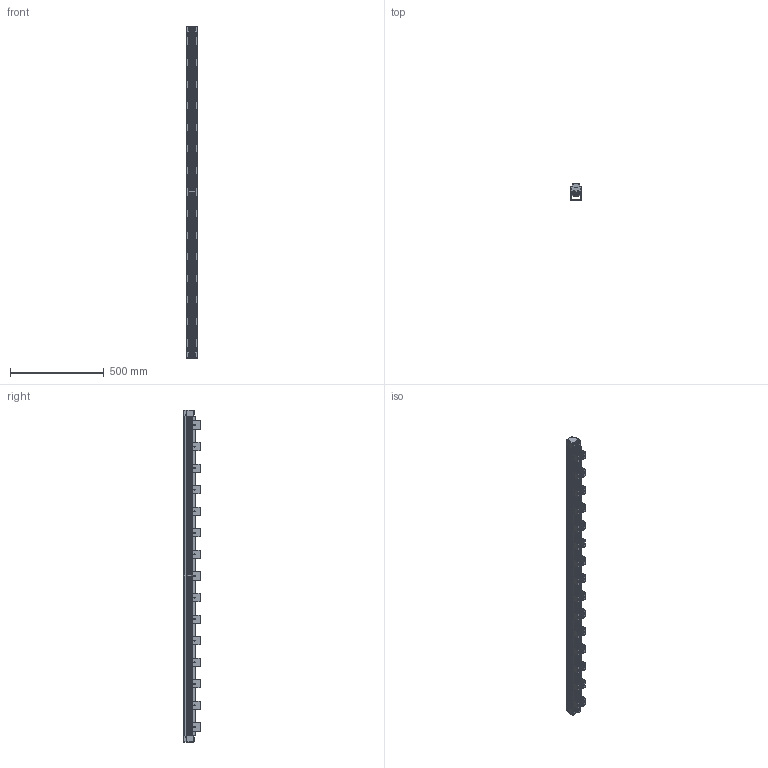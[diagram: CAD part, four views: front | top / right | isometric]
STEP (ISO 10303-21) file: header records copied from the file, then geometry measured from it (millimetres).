
FILE_DESCRIPTION((''),'2;1');
FILE_NAME('P-LSG-1700_ASM','2020-10-19T',('Administrator'),(''),'PRO/ENGINEER BY PARAMETRIC TECHNOLOGY CORPORATION, 2010100','PRO/ENGINEER BY PARAMETRIC TECHNOLOGY CORPORATION, 2010100','');
FILE_SCHEMA(('CONFIG_CONTROL_DESIGN'));
Length unit declared in the file: millimetre
Products named in the file (5): JIEMIAN; SRP; FSZ; 19M-6H; P-LSG-1700_ASM
Assembly tree (19 placements, depth 2):
  P-LSG-1700_ASM
    JIEMIAN
    SRP
    FSZ  x15
    19M-6H  x2
Bounding box: 58 x 92.5 x 1770 mm (x, y, z)
Volume: 4042861.1 mm3; surface area: 1399902.9 mm2
Topology: 18 solids, 78 shells, 1601 faces, 4214 edges, 2646 vertices
Faces by surface type: plane 861, cylinder 524, cone 216
Entity records: 17910 total; most frequent: DIRECTION 3144, CARTESIAN_POINT 3107, ORIENTED_EDGE 2964, EDGE_CURVE 1490, AXIS2_PLACEMENT_3D 1049, VECTOR 1046, LINE 1046, VERTEX_POINT 938
